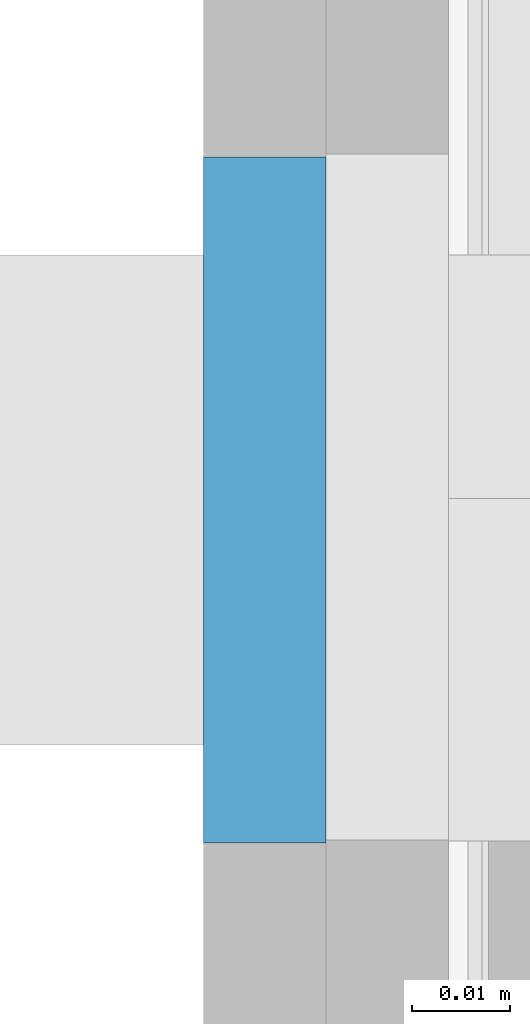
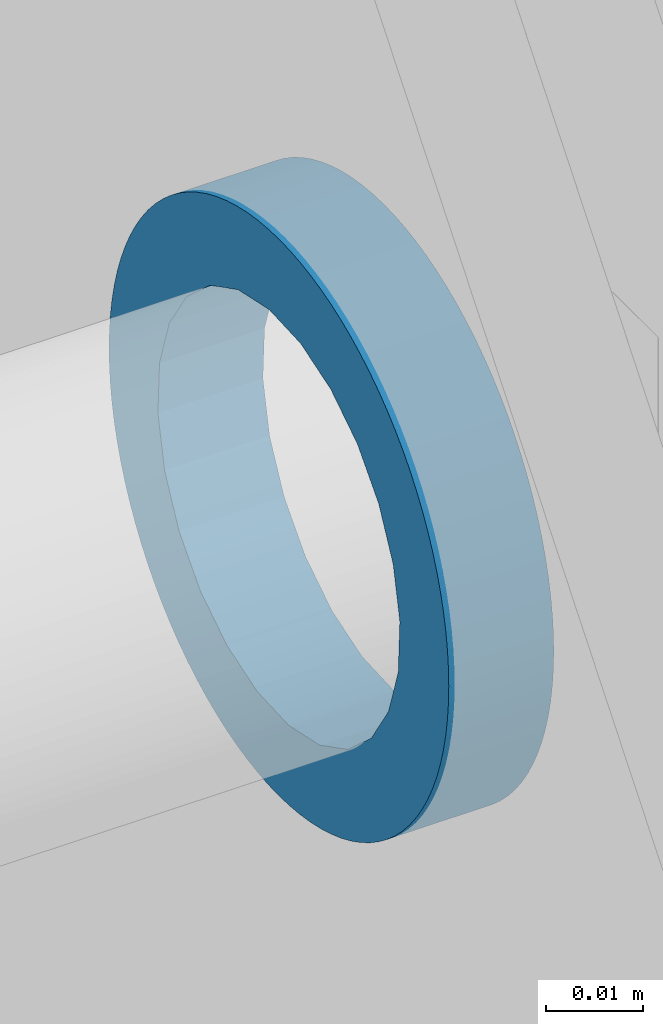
# One storey, part 11 of 92: 1 wall.
"""IFC2X3 building model written with IfcOpenShell, lengths in millimetres."""

from ifc_helpers import new_model, si_unit, frame, origin_with_axes, place, context, subcontext, project, spatial, faceted_brep, material, type_object, element, save


model = new_model("IFC2X3")

# Units and contexts
model_context = context("Model", 3, world=origin_with_axes())
body_context = subcontext(model_context, "Body", "Model", "MODEL_VIEW")
ifc_project = project(units=[si_unit("LENGTHUNIT", "METRE", prefix="MILLI"), si_unit("AREAUNIT", "SQUARE_METRE"), si_unit("VOLUMEUNIT", "CUBIC_METRE")], contexts=[model_context])

# Site, building, storey
site_placement = place(None, origin_with_axes())
site = spatial("IfcSite", under=ifc_project, at=site_placement, Name="Default Site", CompositionType="ELEMENT")
building_placement = place(site_placement, origin_with_axes())
building = spatial("IfcBuilding", under=site, at=building_placement, Name="Default Building", CompositionType="ELEMENT")
storey_placement = place(building_placement, origin_with_axes())
storey = spatial("IfcBuildingStorey", under=building, at=storey_placement, Name="Default Building Storey", CompositionType="ELEMENT", Elevation=0.0)

# Wall
ifc_material = material(Name="M08_Obsidian_Black")
wall_type = type_object("IfcWallType", Name="Wypełnienie masą szpachlową RIGIPS#4", PredefinedType="NOTDEFINED")
wall_placement = place(storey_placement, frame((12.507633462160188, 1040.0526012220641, 679.9925650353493), z_axis=(0.0, 0.0, 1.0), x_axis=(-4.718447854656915e-16, 1.0, 0.0)))
element("IfcWall", 1, at=wall_placement, inside=storey, type_object=wall_type, material=ifc_material, Name="Wypełnienie masą szpachlową RIGIPS", context=body_context, shape_type="Brep", body=[
    faceted_brep([(0.0, 4.511946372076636e-14, -84.9303099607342), (0.0, 4.511946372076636e-14, -74.74771466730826), (-2.0149168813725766, 4.511946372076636e-14, -74.84897986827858), (-8.395686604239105, 9.023892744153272e-14, -73.47839791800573), (-14.204304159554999, 9.023892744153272e-14, -70.50305268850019), (-19.04492186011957, 9.023892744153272e-14, -66.12570904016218), (-22.587659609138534, 1.3535839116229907e-13, -60.64467570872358), (-24.59108568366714, 1.3535839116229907e-13, -54.43347605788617), (-24.918669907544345, 1.3535839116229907e-13, -47.91539307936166), (-23.5480879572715, 1.3535839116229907e-13, -41.53462335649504), (-20.57274272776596, 1.3535839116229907e-13, -35.726005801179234), (-16.19539907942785, 9.023892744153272e-14, -30.885388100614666), (-10.714365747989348, 9.023892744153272e-14, -27.342650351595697), (-4.503166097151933, 8.741896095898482e-14, -25.339224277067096), (0.0, 4.511946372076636e-14, -25.112905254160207), (0.0, 4.511946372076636e-14, -14.93030996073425), (-2.1976681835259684, 4.511946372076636e-14, -14.999374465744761), (-4.386663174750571, 4.511946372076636e-14, -15.206295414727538), (-6.558346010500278, 4.511946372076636e-14, -15.550256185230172), (-8.704146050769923, 4.511946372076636e-14, -16.029899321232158), (-10.815594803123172, 9.023892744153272e-14, -16.643331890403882), (-12.884359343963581, 9.023892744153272e-14, -17.38813295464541), (-14.902275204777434, 9.023892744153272e-14, -18.261363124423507), (-16.86137859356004, 9.023892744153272e-14, -19.25957615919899), (-18.753937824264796, 9.023892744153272e-14, -20.3788325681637), (-20.57248383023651, 9.023892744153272e-14, -21.61471515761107), (-22.309839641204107, 9.023892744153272e-14, -22.962346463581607), (-23.959148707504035, 9.023892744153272e-14, -24.4164080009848), (-25.513901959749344, 8.741896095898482e-14, -25.971161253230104), (-26.967963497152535, 1.268984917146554e-13, -27.620470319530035), (-28.31559480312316, 1.3535839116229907e-13, -29.35782613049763), (-29.55147739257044, 1.3535839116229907e-13, -31.176372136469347), (-30.670733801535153, 1.3535839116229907e-13, -33.068931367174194), (-31.668946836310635, 1.3535839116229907e-13, -35.02803475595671), (-32.54217700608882, 1.3535839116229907e-13, -37.04595061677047), (-33.28697807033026, 1.268984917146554e-13, -39.11471515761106), (-33.900410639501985, 1.3535839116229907e-13, -41.226163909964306), (-34.38005377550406, 1.3253842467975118e-13, -43.37196395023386), (-34.724014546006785, 1.3535839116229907e-13, -45.54364678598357), (-34.93093549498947, 1.3535839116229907e-13, -47.732641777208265), (-34.99999999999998, 1.3535839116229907e-13, -49.930309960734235), (-34.93093549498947, 1.3535839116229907e-13, -52.1279781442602), (-34.724014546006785, 1.3535839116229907e-13, -54.31697313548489), (-34.38005377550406, 1.3253842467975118e-13, -56.4886559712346), (-33.900410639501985, 1.3535839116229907e-13, -58.634456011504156), (-33.28697807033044, 1.268984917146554e-13, -60.7459047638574), (-32.54217700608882, 1.3535839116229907e-13, -62.8146693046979), (-31.668946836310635, 1.3535839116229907e-13, -64.83258516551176), (-30.670733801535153, 1.3535839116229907e-13, -66.79168855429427), (-29.55147739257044, 1.3535839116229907e-13, -68.68424778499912), (-28.31559480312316, 1.3535839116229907e-13, -70.50279379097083), (-26.967963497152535, 1.268984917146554e-13, -72.24014960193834), (-25.513901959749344, 8.741896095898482e-14, -73.88945866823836), (-23.959148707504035, 9.023892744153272e-14, -75.44421192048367), (-22.309839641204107, 9.023892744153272e-14, -76.89827345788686), (-20.57248383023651, 9.023892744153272e-14, -78.2459047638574), (-18.753937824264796, 9.023892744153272e-14, -79.48178735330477), (-16.86137859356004, 9.023892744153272e-14, -80.60104376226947), (-14.902275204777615, 9.023892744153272e-14, -81.59925679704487), (-12.884359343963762, 9.023892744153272e-14, -82.47248696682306), (-10.815594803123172, 9.023892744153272e-14, -83.21728803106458), (-8.704146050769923, 4.511946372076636e-14, -83.8307206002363), (-6.558346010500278, 4.511946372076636e-14, -84.31036373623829), (-4.386663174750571, 4.511946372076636e-14, -84.65432450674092), (-2.1976681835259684, 4.511946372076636e-14, -84.8612454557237), (-2.1976681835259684, 12.50000009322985, -84.8612454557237), (0.0, 12.50000009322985, -84.9303099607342), (-4.386663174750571, 12.50000009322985, -84.65432450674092), (-6.558346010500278, 12.50000009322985, -84.31036373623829), (-8.704146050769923, 12.50000009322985, -83.8307206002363), (-10.815594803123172, 12.500000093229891, -83.21728803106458), (-12.884359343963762, 12.500000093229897, -82.47248696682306), (-14.902275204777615, 12.500000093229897, -81.59925679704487), (-16.86137859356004, 12.500000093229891, -80.60104376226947), (-18.753937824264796, 12.500000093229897, -79.48178735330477), (-20.57248383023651, 12.500000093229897, -78.2459047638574), (-22.309839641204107, 12.500000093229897, -76.89827345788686), (-23.959148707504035, 12.500000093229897, -75.44421192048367), (-25.513901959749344, 12.50000009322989, -73.88945866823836), (-26.967963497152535, 12.500000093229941, -72.24014960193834), (-28.31559480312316, 12.500000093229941, -70.50279379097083), (-29.55147739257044, 12.500000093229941, -68.68424778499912), (-30.670733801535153, 12.500000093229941, -66.79168855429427), (-31.668946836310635, 12.500000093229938, -64.83258516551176), (-32.54217700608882, 12.500000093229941, -62.8146693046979), (-33.28697807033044, 12.500000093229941, -60.7459047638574), (-33.900410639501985, 12.500000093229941, -58.634456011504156), (-34.38005377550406, 12.500000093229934, -56.4886559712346), (-34.724014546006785, 12.500000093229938, -54.31697313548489), (-34.93093549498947, 12.500000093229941, -52.1279781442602), (-34.99999999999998, 12.500000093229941, -49.930309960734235), (-34.93093549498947, 12.500000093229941, -47.732641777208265), (-34.724014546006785, 12.500000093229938, -45.54364678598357), (-34.38005377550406, 12.500000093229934, -43.37196395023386), (-33.900410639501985, 12.500000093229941, -41.226163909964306), (-33.28697807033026, 12.500000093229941, -39.11471515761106), (-32.54217700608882, 12.500000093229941, -37.04595061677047), (-31.668946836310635, 12.500000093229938, -35.02803475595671), (-30.670733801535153, 12.500000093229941, -33.068931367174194), (-29.55147739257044, 12.500000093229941, -31.176372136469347), (-28.31559480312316, 12.500000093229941, -29.35782613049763), (-26.967963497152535, 12.500000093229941, -27.620470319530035), (-25.513901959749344, 12.50000009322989, -25.971161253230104), (-23.959148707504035, 12.500000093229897, -24.4164080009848), (-22.309839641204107, 12.500000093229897, -22.962346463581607), (-20.57248383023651, 12.500000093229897, -21.61471515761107), (-18.753937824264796, 12.500000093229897, -20.3788325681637), (-16.86137859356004, 12.500000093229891, -19.25957615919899), (-14.902275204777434, 12.500000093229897, -18.261363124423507), (-12.884359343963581, 12.500000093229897, -17.38813295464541), (-10.815594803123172, 12.500000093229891, -16.643331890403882), (-8.704146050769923, 12.50000009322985, -16.029899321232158), (-6.558346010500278, 12.50000009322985, -15.550256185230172), (-4.386663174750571, 12.50000009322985, -15.206295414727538), (-2.1976681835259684, 12.50000009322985, -14.999374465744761), (0.0, 12.50000009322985, -14.93030996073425), (-4.503166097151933, 12.50000009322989, -25.339224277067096), (0.0, 12.50000009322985, -25.112905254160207), (-10.714365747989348, 12.500000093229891, -27.342650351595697), (-16.19539907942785, 12.500000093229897, -30.885388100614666), (-20.57274272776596, 12.500000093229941, -35.726005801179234), (-23.5480879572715, 12.500000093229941, -41.53462335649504), (-24.918669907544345, 12.500000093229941, -47.91539307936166), (-24.59108568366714, 12.500000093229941, -54.43347605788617), (-22.587659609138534, 12.500000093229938, -60.64467570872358), (-19.04492186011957, 12.500000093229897, -66.12570904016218), (-14.204304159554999, 12.500000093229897, -70.50305268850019), (-8.395686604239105, 12.500000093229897, -73.47839791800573), (-2.0149168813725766, 12.50000009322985, -74.84897986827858), (0.0, 12.50000009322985, -74.74771466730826), (2.0149168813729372, 4.511946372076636e-14, -25.01164005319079), (8.39568660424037, 4.511946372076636e-14, -26.382222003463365), (14.20430415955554, 4.511946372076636e-14, -29.357567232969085), (19.04492186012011, 4.511946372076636e-14, -33.73491088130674), (22.58765960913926, 4.511946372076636e-14, -39.21594421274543), (24.59108568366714, 4.511946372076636e-14, -45.42714386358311), (24.918669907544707, -4.511946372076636e-14, -51.94522684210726), (23.54808795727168, -4.511946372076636e-14, -58.32599656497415), (20.57274272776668, -5.357936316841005e-14, -64.13461412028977), (16.195399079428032, -1.3535839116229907e-13, -68.97523182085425), (10.714365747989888, -1.3535839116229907e-13, -72.5179695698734), (4.503166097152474, -1.3535839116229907e-13, -74.52139564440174), (2.197668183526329, -1.3535839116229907e-13, -84.86124545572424), (4.386663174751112, -1.3817835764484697e-13, -84.65432450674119), (6.558346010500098, -1.3535839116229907e-13, -84.31036373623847), (8.704146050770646, -1.4381829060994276e-13, -83.83072060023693), (10.815594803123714, -1.3535839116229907e-13, -83.21728803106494), (12.884359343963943, -1.3535839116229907e-13, -82.47248696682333), (14.902275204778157, -1.4381829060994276e-13, -81.59925679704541), (16.861378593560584, -1.3535839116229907e-13, -80.60104376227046), (18.75393782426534, -1.3535839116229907e-13, -79.48178735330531), (20.57248383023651, -1.4381829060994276e-13, -78.24590476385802), (22.309839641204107, -1.3817835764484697e-13, -76.89827345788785), (23.95914870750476, -1.3535839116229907e-13, -75.44421192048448), (25.513901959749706, -1.3535839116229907e-13, -73.88945866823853), (26.967963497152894, -4.511946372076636e-14, -72.24014960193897), (28.315594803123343, -4.7939430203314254e-14, -70.50279379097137), (29.551477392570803, -4.511946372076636e-14, -68.68424778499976), (30.670733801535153, -4.511946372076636e-14, -66.79168855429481), (31.668946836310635, -4.511946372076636e-14, -64.83258516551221), (32.542177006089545, -5.357936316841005e-14, -62.81466930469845), (33.28697807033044, -4.511946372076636e-14, -60.74590476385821), (33.90041063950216, -4.511946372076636e-14, -58.63445601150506), (34.380053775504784, -4.511946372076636e-14, -56.48865597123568), (34.72401454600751, -4.511946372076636e-14, -54.31697313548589), (34.93093549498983, -4.511946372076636e-14, -52.12797814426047), (35.00000000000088, -4.511946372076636e-14, -49.930309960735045), (34.93093549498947, 4.511946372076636e-14, -47.732641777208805), (34.724014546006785, 4.511946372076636e-14, -45.54364678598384), (34.38005377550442, 4.511946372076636e-14, -43.37196395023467), (33.900410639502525, 4.511946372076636e-14, -41.22616390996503), (33.28697807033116, 4.511946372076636e-14, -39.11471515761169), (32.54217700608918, 3.665956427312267e-14, -37.04595061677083), (31.668946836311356, 4.511946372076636e-14, -35.02803475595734), (30.670733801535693, 4.511946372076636e-14, -33.06893136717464), (29.55147739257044, 4.511946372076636e-14, -31.17637213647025), (28.315594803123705, 4.2299497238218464e-14, -29.357826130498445), (26.967963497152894, 4.511946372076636e-14, -27.62047031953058), (25.513901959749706, 4.511946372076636e-14, -25.971161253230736), (23.959148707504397, 4.511946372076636e-14, -24.41640800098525), (22.309839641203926, 4.2299497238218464e-14, -22.962346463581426), (20.572483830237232, 3.665956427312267e-14, -21.61471515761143), (18.753937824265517, 4.511946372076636e-14, -20.378832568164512), (16.861378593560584, 4.511946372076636e-14, -19.259576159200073), (14.902275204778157, 3.665956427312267e-14, -18.26136312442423), (12.884359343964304, 4.511946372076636e-14, -17.388132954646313), (10.815594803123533, 4.511946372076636e-14, -16.643331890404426), (8.704146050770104, 3.665956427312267e-14, -16.02989932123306), (6.55834601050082, 4.511946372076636e-14, -15.550256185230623), (4.386663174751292, 4.2299497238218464e-14, -15.20629541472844), (2.1976681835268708, 4.511946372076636e-14, -14.999374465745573), (2.197668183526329, 12.500000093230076, -84.86124545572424), (2.1976681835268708, 12.500000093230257, -14.999374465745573), (4.386663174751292, 12.50000009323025, -15.20629541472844), (6.55834601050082, 12.500000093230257, -15.550256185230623), (8.704146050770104, 12.500000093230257, -16.02989932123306), (10.815594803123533, 12.500000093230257, -16.643331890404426), (12.884359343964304, 12.500000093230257, -17.388132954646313), (14.902275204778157, 12.500000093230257, -18.26136312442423), (16.861378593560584, 12.500000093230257, -19.259576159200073), (18.753937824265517, 12.500000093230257, -20.378832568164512), (20.572483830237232, 12.500000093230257, -21.61471515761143), (22.309839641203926, 12.50000009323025, -22.962346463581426), (23.959148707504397, 12.500000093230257, -24.41640800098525), (25.513901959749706, 12.500000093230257, -25.971161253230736), (26.967963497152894, 12.500000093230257, -27.62047031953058), (28.315594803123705, 12.50000009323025, -29.357826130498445), (29.55147739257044, 12.500000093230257, -31.17637213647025), (30.670733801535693, 12.500000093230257, -33.06893136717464), (31.668946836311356, 12.500000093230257, -35.02803475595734), (32.54217700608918, 12.500000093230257, -37.04595061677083), (33.28697807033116, 12.500000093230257, -39.11471515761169), (33.900410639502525, 12.500000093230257, -41.22616390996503), (34.38005377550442, 12.500000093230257, -43.37196395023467), (34.724014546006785, 12.500000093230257, -45.54364678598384), (34.93093549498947, 12.500000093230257, -47.732641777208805), (35.00000000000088, 12.500000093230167, -49.930309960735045), (34.93093549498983, 12.500000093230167, -52.12797814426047), (34.72401454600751, 12.500000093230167, -54.31697313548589), (34.380053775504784, 12.500000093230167, -56.48865597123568), (33.90041063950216, 12.500000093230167, -58.63445601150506), (33.28697807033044, 12.500000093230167, -60.74590476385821), (32.542177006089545, 12.500000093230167, -62.81466930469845), (31.668946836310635, 12.500000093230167, -64.83258516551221), (30.670733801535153, 12.500000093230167, -66.79168855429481), (29.551477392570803, 12.500000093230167, -68.68424778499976), (28.315594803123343, 12.50000009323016, -70.50279379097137), (26.967963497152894, 12.500000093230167, -72.24014960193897), (25.513901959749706, 12.500000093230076, -73.88945866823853), (23.95914870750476, 12.500000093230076, -75.44421192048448), (22.309839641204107, 12.500000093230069, -76.89827345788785), (20.57248383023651, 12.500000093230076, -78.24590476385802), (18.75393782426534, 12.500000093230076, -79.48178735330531), (16.861378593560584, 12.500000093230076, -80.60104376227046), (14.902275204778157, 12.500000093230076, -81.59925679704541), (12.884359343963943, 12.500000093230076, -82.47248696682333), (10.815594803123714, 12.500000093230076, -83.21728803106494), (8.704146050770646, 12.500000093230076, -83.83072060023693), (6.558346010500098, 12.500000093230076, -84.31036373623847), (4.386663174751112, 12.500000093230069, -84.65432450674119), (4.503166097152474, 12.500000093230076, -74.52139564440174), (10.714365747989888, 12.500000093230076, -72.5179695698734), (16.195399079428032, 12.500000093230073, -68.97523182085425), (20.57274272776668, 12.500000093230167, -64.13461412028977), (23.54808795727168, 12.500000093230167, -58.32599656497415), (24.918669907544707, 12.500000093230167, -51.94522684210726), (24.59108568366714, 12.500000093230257, -45.42714386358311), (22.58765960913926, 12.500000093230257, -39.21594421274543), (19.04492186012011, 12.500000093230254, -33.73491088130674), (14.20430415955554, 12.500000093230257, -29.357567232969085), (8.39568660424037, 12.500000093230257, -26.382222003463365), (2.0149168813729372, 12.500000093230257, -25.01164005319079)], [[[0, 1, 2, 3, 4, 5, 6, 7, 8, 9, 10, 11, 12, 13, 14, 15, 16, 17, 18, 19, 20, 21, 22, 23, 24, 25, 26, 27, 28, 29, 30, 31, 32, 33, 34, 35, 36, 37, 38, 39, 40, 41, 42, 43, 44, 45, 46, 47, 48, 49, 50, 51, 52, 53, 54, 55, 56, 57, 58, 59, 60, 61, 62, 63, 64]], [[0, 64, 65, 66]], [[64, 63, 67, 65]], [[63, 62, 68, 67]], [[62, 61, 69, 68]], [[61, 60, 70, 69]], [[60, 59, 71, 70]], [[59, 58, 72, 71]], [[58, 57, 73, 72]], [[57, 56, 74, 73]], [[56, 55, 75, 74]], [[55, 54, 76, 75]], [[54, 53, 77, 76]], [[53, 52, 78, 77]], [[52, 51, 79, 78]], [[51, 50, 80, 79]], [[50, 49, 81, 80]], [[49, 48, 82, 81]], [[48, 47, 83, 82]], [[47, 46, 84, 83]], [[46, 45, 85, 84]], [[45, 44, 86, 85]], [[44, 43, 87, 86]], [[43, 42, 88, 87]], [[42, 41, 89, 88]], [[41, 40, 90, 89]], [[40, 39, 91, 90]], [[39, 38, 92, 91]], [[38, 37, 93, 92]], [[37, 36, 94, 93]], [[36, 35, 95, 94]], [[35, 34, 96, 95]], [[34, 33, 97, 96]], [[33, 32, 98, 97]], [[32, 31, 99, 98]], [[31, 30, 100, 99]], [[30, 29, 101, 100]], [[29, 28, 102, 101]], [[28, 27, 103, 102]], [[27, 26, 104, 103]], [[26, 25, 105, 104]], [[25, 24, 106, 105]], [[24, 23, 107, 106]], [[23, 22, 108, 107]], [[22, 21, 109, 108]], [[21, 20, 110, 109]], [[20, 19, 111, 110]], [[19, 18, 112, 111]], [[18, 17, 113, 112]], [[17, 16, 114, 113]], [[16, 15, 115, 114]], [[14, 13, 116, 117]], [[13, 12, 118, 116]], [[12, 11, 119, 118]], [[11, 10, 120, 119]], [[10, 9, 121, 120]], [[9, 8, 122, 121]], [[8, 7, 123, 122]], [[7, 6, 124, 123]], [[6, 5, 125, 124]], [[5, 4, 126, 125]], [[4, 3, 127, 126]], [[3, 2, 128, 127]], [[2, 1, 129, 128]], [[15, 14, 130, 131, 132, 133, 134, 135, 136, 137, 138, 139, 140, 141, 1, 0, 142, 143, 144, 145, 146, 147, 148, 149, 150, 151, 152, 153, 154, 155, 156, 157, 158, 159, 160, 161, 162, 163, 164, 165, 166, 167, 168, 169, 170, 171, 172, 173, 174, 175, 176, 177, 178, 179, 180, 181, 182, 183, 184, 185, 186, 187, 188, 189, 190]], [[191, 66, 65, 67, 68, 69, 70, 71, 72, 73, 74, 75, 76, 77, 78, 79, 80, 81, 82, 83, 84, 85, 86, 87, 88, 89, 90, 91, 92, 93, 94, 95, 96, 97, 98, 99, 100, 101, 102, 103, 104, 105, 106, 107, 108, 109, 110, 111, 112, 113, 114, 115, 192, 193, 194, 195, 196, 197, 198, 199, 200, 201, 202, 203, 204, 205, 206, 207, 208, 209, 210, 211, 212, 213, 214, 215, 216, 217, 218, 219, 220, 221, 222, 223, 224, 225, 226, 227, 228, 229, 230, 231, 232, 233, 234, 235, 236, 237, 238, 239], [128, 129, 240, 241, 242, 243, 244, 245, 246, 247, 248, 249, 250, 251, 117, 116, 118, 119, 120, 121, 122, 123, 124, 125, 126, 127]], [[15, 190, 192, 115]], [[190, 189, 193, 192]], [[189, 188, 194, 193]], [[188, 187, 195, 194]], [[187, 186, 196, 195]], [[186, 185, 197, 196]], [[185, 184, 198, 197]], [[184, 183, 199, 198]], [[183, 182, 200, 199]], [[182, 181, 201, 200]], [[181, 180, 202, 201]], [[180, 179, 203, 202]], [[179, 178, 204, 203]], [[178, 177, 205, 204]], [[177, 176, 206, 205]], [[176, 175, 207, 206]], [[175, 174, 208, 207]], [[174, 173, 209, 208]], [[173, 172, 210, 209]], [[172, 171, 211, 210]], [[171, 170, 212, 211]], [[170, 169, 213, 212]], [[169, 168, 214, 213]], [[168, 167, 215, 214]], [[167, 166, 216, 215]], [[166, 165, 217, 216]], [[165, 164, 218, 217]], [[164, 163, 219, 218]], [[163, 162, 220, 219]], [[162, 161, 221, 220]], [[161, 160, 222, 221]], [[160, 159, 223, 222]], [[159, 158, 224, 223]], [[158, 157, 225, 224]], [[157, 156, 226, 225]], [[156, 155, 227, 226]], [[155, 154, 228, 227]], [[154, 153, 229, 228]], [[153, 152, 230, 229]], [[152, 151, 231, 230]], [[151, 150, 232, 231]], [[150, 149, 233, 232]], [[149, 148, 234, 233]], [[148, 147, 235, 234]], [[147, 146, 236, 235]], [[146, 145, 237, 236]], [[145, 144, 238, 237]], [[144, 143, 239, 238]], [[143, 142, 191, 239]], [[142, 0, 66, 191]], [[1, 141, 240, 129]], [[141, 140, 241, 240]], [[140, 139, 242, 241]], [[139, 138, 243, 242]], [[138, 137, 244, 243]], [[137, 136, 245, 244]], [[136, 135, 246, 245]], [[135, 134, 247, 246]], [[134, 133, 248, 247]], [[133, 132, 249, 248]], [[132, 131, 250, 249]], [[131, 130, 251, 250]], [[130, 14, 117, 251]]]),
])

save(model, "model.ifc")
